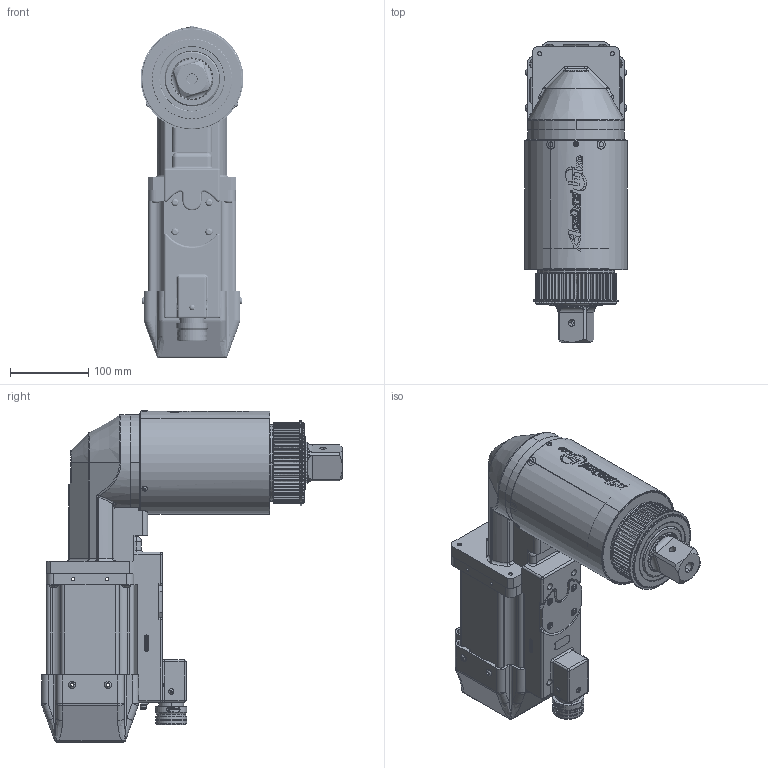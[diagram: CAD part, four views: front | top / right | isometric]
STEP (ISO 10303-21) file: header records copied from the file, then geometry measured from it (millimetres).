
FILE_DESCRIPTION (( 'STEP AP203' ), '1' );
FILE_NAME ('AEF4N9X10000B.STEP', '2025-09-18T12:43:15', ( '' ), ( '' ), 'SwSTEP 2.0', 'SolidWorks 2024', '' );
FILE_SCHEMA (( 'CONFIG_CONTROL_DESIGN' ));
Products named in the file (1): AEF4N9X10000B
Bounding box: 131.28 x 384.15 x 423.9 mm (x, y, z)
Surface area: 566852 mm2 (no closed solid volume)
Topology: 0 solids, 145 shells, 1440 faces, 7051 edges, 5554 vertices
Faces by surface type: cylinder 491, plane 353, bspline 274, torus 157, cone 137, sphere 28
Entity records: 175439 total; most frequent: CARTESIAN_POINT 124762, ORIENTED_EDGE 9614, DIRECTION 8975, EDGE_CURVE 7009, VERTEX_POINT 5554, AXIS2_PLACEMENT_3D 3024, LINE 2927, VECTOR 2927
